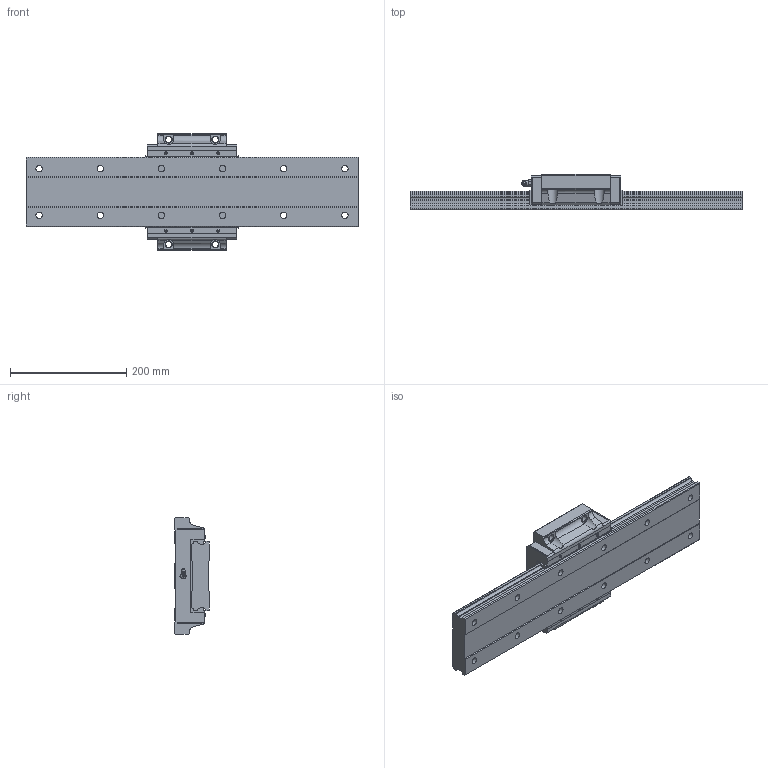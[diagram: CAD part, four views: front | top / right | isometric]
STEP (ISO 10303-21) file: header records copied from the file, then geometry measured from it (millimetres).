
FILE_DESCRIPTION(/* description */ ('STEP AP203'),/* implementation_level */ '2;1');
FILE_NAME(/* name */ 'HRW60CA1SS-570L_G22-5_0_B-PT18_205-55_0_0_0_1',/* time_stamp */ '2024-05-21T09:49:23+02:00',/* author */ ('License CC BY-ND 4.0'),/* organization */ ('CADENAS'),/* preprocessor_version */ 'ST-DEVELOPER v19.3',/* originating_system */ 'PARTsolutions',/* authorisation */ ' ');
FILE_SCHEMA (('CONFIG_CONTROL_DESIGN'));
Length unit declared in the file: millimetre
Products named in the file (4): HRW60CA1SS-570L_G22-5_0_B-PT18_205-55_0_0_0_1; HRW60CA57022.5 Track; HRW60CASSB-PT1/81 Slide17-60; HRW-B-PT1/8_grease_nipple_joint
Assembly tree (3 placements, depth 2):
  HRW60CA1SS-570L_G22-5_0_B-PT18_205-55_0_0_0_1
    HRW60CA57022.5 Track
    HRW60CASSB-PT1/81 Slide17-60
    HRW-B-PT1/8_grease_nipple_joint
Bounding box: 570 x 60 x 200 mm (x, y, z)
Volume: 2912394.2 mm3; surface area: 299458.6 mm2
Topology: 3 solids, 3 shells, 277 faces, 720 edges, 471 vertices
Faces by surface type: plane 181, cylinder 61, cone 24, torus 9, sphere 2
Full cylindrical faces by diameter (mm): 4.5 x6, 9.6 x1, 10.106 x2, 10.5 x4, 11 x12, 17.5 x14
Entity records: 8220 total; most frequent: CARTESIAN_POINT 1566, DIRECTION 1322, ORIENTED_EDGE 1262, EDGE_CURVE 631, VERTEX_POINT 458, AXIS2_PLACEMENT_3D 449, LINE 424, VECTOR 424
